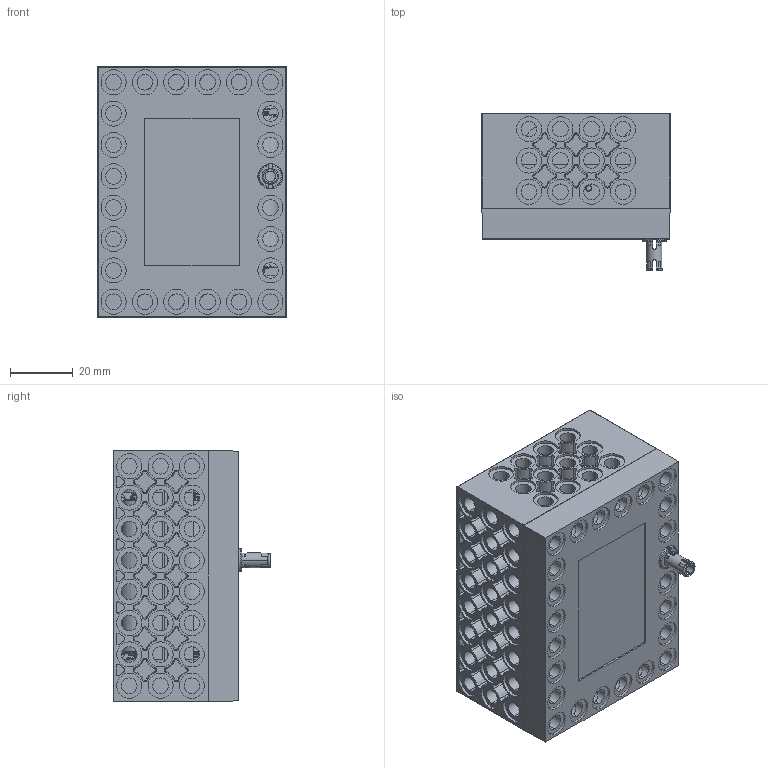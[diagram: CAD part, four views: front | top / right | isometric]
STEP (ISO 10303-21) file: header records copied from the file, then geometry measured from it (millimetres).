
FILE_DESCRIPTION((''),'2;1');
FILE_NAME('BABETA_ASM','2019-05-26T',('User'),(''),'PRO/ENGINEER BY PARAMETRIC TECHNOLOGY CORPORATION, 2009360','PRO/ENGINEER BY PARAMETRIC TECHNOLOGY CORPORATION, 2009360','');
FILE_SCHEMA(('AUTOMOTIVE_DESIGN_CC2 { 1 2 10303 214 -1 1 5 2 }'));
Length unit declared in the file: millimetre
Products named in the file (29): BACA_1; BACA_2; BACA_ASM; SOLID1; SOLID2; SOLID3; SOLID4; SOLID5; SOLID6; SOLID7; SOLID8; SOLID9; SOLID10; SOLID11; SOLID12; SOLID13; SOLID14; SOLID15; SOLID16; SOLID17; SOLID18; SOLID26; BATTERY_HOLDER_WZY-148-1_ASM; BATTERY; BATTERY_HOLDER_WZY-148-1_WITH_C_ASM; BACA_3; BACA_ASSEMBLY_ASM; CP1X1; BABETA_ASM
Assembly tree (33 placements, depth 5):
  BABETA_ASM
    BACA_ASSEMBLY_ASM
      BACA_ASM
        BACA_1
        BACA_2
      BATTERY_HOLDER_WZY-148-1_WITH_C_ASM
        BATTERY_HOLDER_WZY-148-1_ASM
          SOLID1
          SOLID2
          SOLID3
          SOLID4
          SOLID5
          SOLID6
          SOLID7
          SOLID8
          SOLID9
          SOLID10
          SOLID11
          SOLID12
          SOLID13
          SOLID14
          SOLID15
          SOLID16
          SOLID17
          SOLID18
          SOLID26
        BATTERY  x6
      BACA_3
    CP1X1
Bounding box: 60 x 50.05 x 80 mm (x, y, z)
Volume: 116243.5 mm3; surface area: 103523.2 mm2
Topology: 30 solids, 30 shells, 2173 faces, 5784 edges, 3815 vertices
Faces by surface type: plane 820, cylinder 725, torus 262, cone 220, bspline 120, sphere 26
Entity records: 93066 total; most frequent: CARTESIAN_POINT 25900, DIRECTION 10914, ORIENTED_EDGE 10588, EDGE_CURVE 5294, PRESENTATION_STYLE_ASSIGNMENT 5195, STYLED_ITEM 5194, CURVE_STYLE 5162, AXIS2_PLACEMENT_3D 4096
